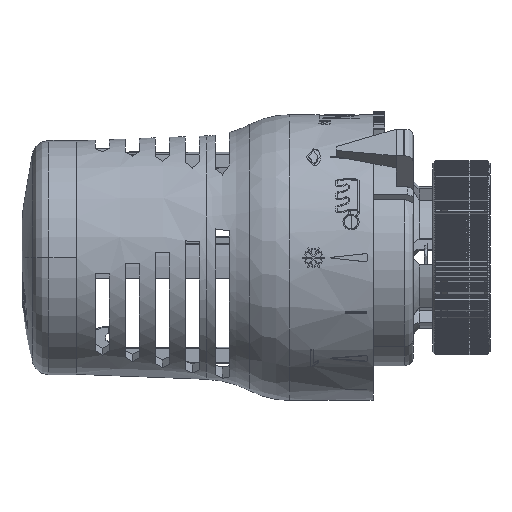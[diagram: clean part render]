
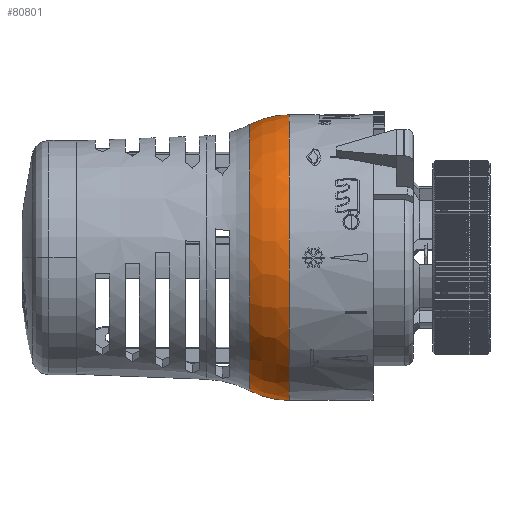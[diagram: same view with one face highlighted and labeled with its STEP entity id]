
A CAD part, left-side view. The second image highlights one B-rep face of the part: STEP entity #80801.
In plain terms, the highlighted toroidal (fillet/blend) face has major radius 9.942 mm and minor radius 15.058 mm.
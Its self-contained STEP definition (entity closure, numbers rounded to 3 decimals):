
#939 = CARTESIAN_POINT ( 'NONE',  ( 0., 14.7, -9.942 ) ) ;
#2849 = DIRECTION ( 'NONE',  ( 0., 0., -1. ) ) ;
#4453 = CARTESIAN_POINT ( 'NONE',  ( 0., 14.7, 25. ) ) ;
#7067 = CARTESIAN_POINT ( 'NONE',  ( 0., 21.65, -23.3 ) ) ;
#7185 = DIRECTION ( 'NONE',  ( 0., 0., -1. ) ) ;
#7274 = EDGE_CURVE ( 'NONE', #42352, #58903, #70033, .T. ) ;
#8003 = DIRECTION ( 'NONE',  ( 0., 0., 1. ) ) ;
#10211 = AXIS2_PLACEMENT_3D ( 'NONE', #48741, #49042, #7185 ) ;
#17694 = EDGE_CURVE ( 'NONE', #52233, #54948, #20185, .T. ) ;
#18986 = CARTESIAN_POINT ( 'NONE',  ( 0., 14.7, -25. ) ) ;
#20185 = CIRCLE ( 'NONE', #27363, 25. ) ;
#21631 = TOROIDAL_SURFACE ( 'NONE', #10211, 9.942, 15.058 ) ;
#25758 = CARTESIAN_POINT ( 'NONE',  ( 0., 21.65, 23.3 ) ) ;
#27363 = AXIS2_PLACEMENT_3D ( 'NONE', #73620, #31522, #80716 ) ;
#31339 = EDGE_LOOP ( 'NONE', ( #84180, #63397, #50015, #54275 ) ) ;
#31522 = DIRECTION ( 'NONE',  ( 0., -1., 0. ) ) ;
#37589 = CARTESIAN_POINT ( 'NONE',  ( 0., 14.7, 9.942 ) ) ;
#42352 = VERTEX_POINT ( 'NONE', #25758 ) ;
#44649 = DIRECTION ( 'NONE',  ( 0., 0., -1. ) ) ;
#44750 = DIRECTION ( 'NONE',  ( 0., -1., 0. ) ) ;
#47981 = EDGE_CURVE ( 'NONE', #42352, #52233, #75576, .T. ) ;
#48741 = CARTESIAN_POINT ( 'NONE',  ( 0., 14.7, 0. ) ) ;
#49042 = DIRECTION ( 'NONE',  ( 0., -1., 0. ) ) ;
#49881 = DIRECTION ( 'NONE',  ( -1., 0., 0. ) ) ;
#50015 = ORIENTED_EDGE ( 'NONE', *, *, #84574, .T. ) ;
#50311 = CIRCLE ( 'NONE', #85744, 15.058 ) ;
#52233 = VERTEX_POINT ( 'NONE', #4453 ) ;
#54275 = ORIENTED_EDGE ( 'NONE', *, *, #17694, .F. ) ;
#54948 = VERTEX_POINT ( 'NONE', #18986 ) ;
#58903 = VERTEX_POINT ( 'NONE', #7067 ) ;
#61001 = AXIS2_PLACEMENT_3D ( 'NONE', #86815, #44750, #2849 ) ;
#63372 = FACE_OUTER_BOUND ( 'NONE', #31339, .T. ) ;
#63397 = ORIENTED_EDGE ( 'NONE', *, *, #7274, .T. ) ;
#70033 = CIRCLE ( 'NONE', #61001, 23.3 ) ;
#71945 = AXIS2_PLACEMENT_3D ( 'NONE', #37589, #86724, #44649 ) ;
#73620 = CARTESIAN_POINT ( 'NONE',  ( 0., 14.7, 0. ) ) ;
#75576 = CIRCLE ( 'NONE', #71945, 15.058 ) ;
#80716 = DIRECTION ( 'NONE',  ( 0., 0., -1. ) ) ;
#80801 = ADVANCED_FACE ( 'NONE', ( #63372 ), #21631, .T. ) ;
#84180 = ORIENTED_EDGE ( 'NONE', *, *, #47981, .F. ) ;
#84574 = EDGE_CURVE ( 'NONE', #58903, #54948, #50311, .T. ) ;
#85744 = AXIS2_PLACEMENT_3D ( 'NONE', #939, #49881, #8003 ) ;
#86724 = DIRECTION ( 'NONE',  ( 1., 0., 0. ) ) ;
#86815 = CARTESIAN_POINT ( 'NONE',  ( 0., 21.65, 0. ) ) ;
